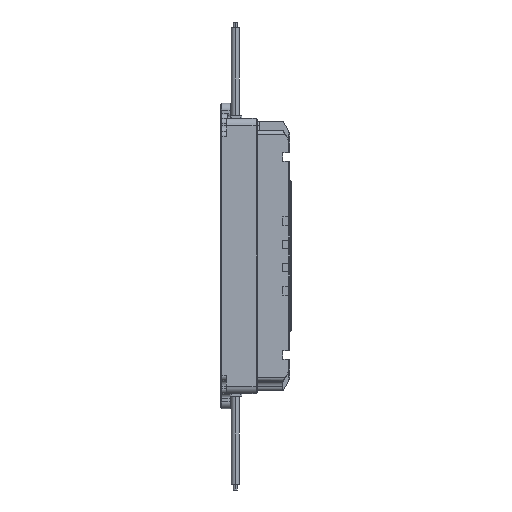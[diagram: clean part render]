
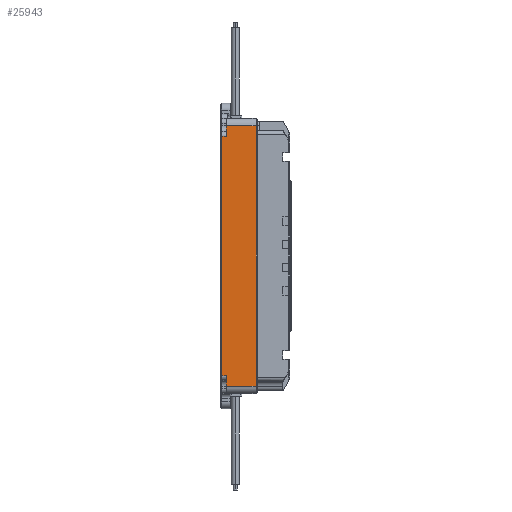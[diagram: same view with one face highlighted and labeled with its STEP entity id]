
A CAD part, left-side view. The second image highlights one B-rep face of the part: STEP entity #25943.
In plain terms, the highlighted planar face has unit normal (-1, 0, 0).
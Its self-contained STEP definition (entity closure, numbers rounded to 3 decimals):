
#1794=DIRECTION('',(0.,0.,1.));
#1795=VECTOR('',#1794,140.);
#1796=CARTESIAN_POINT('',(-33.,-14.,
-70.));
#1797=LINE('',#1796,#1795);
#2938=DIRECTION('',(0.,0.,-1.));
#2939=VECTOR('',#2938,128.8);
#2940=CARTESIAN_POINT('',(-33.,4.5,64.4));
#2941=LINE('',#2940,#2939);
#3352=DIRECTION('',(0.,1.,0.));
#3353=VECTOR('',#3352,16.);
#3354=CARTESIAN_POINT('',(-33.,-14.,
-70.));
#3355=LINE('',#3354,#3353);
#3356=DIRECTION('',(0.,0.,1.));
#3357=VECTOR('',#3356,5.6);
#3358=CARTESIAN_POINT('',(-33.,2.,-70.));
#3359=LINE('',#3358,#3357);
#3360=DIRECTION('',(0.,1.,0.));
#3361=VECTOR('',#3360,2.5);
#3362=CARTESIAN_POINT('',(-33.,2.,-64.4));
#3363=LINE('',#3362,#3361);
#3364=DIRECTION('',(0.,-1.,0.));
#3365=VECTOR('',#3364,2.5);
#3366=CARTESIAN_POINT('',(-33.,4.5,64.4));
#3367=LINE('',#3366,#3365);
#3368=DIRECTION('',(0.,0.,1.));
#3369=VECTOR('',#3368,5.6);
#3370=CARTESIAN_POINT('',(-33.,2.,64.4));
#3371=LINE('',#3370,#3369);
#3376=DIRECTION('',(0.,1.,0.));
#3377=VECTOR('',#3376,16.);
#3378=CARTESIAN_POINT('',(-33.,-14.,
70.));
#3379=LINE('',#3378,#3377);
#17482=CARTESIAN_POINT('',(-33.,2.,70.));
#17483=VERTEX_POINT('',#17482);
#17488=CARTESIAN_POINT('',(-33.,2.,64.4));
#17489=VERTEX_POINT('',#17488);
#17692=CARTESIAN_POINT('',(-33.,4.5,-64.4));
#17693=VERTEX_POINT('',#17692);
#17694=CARTESIAN_POINT('',(-33.,4.5,64.4));
#17695=VERTEX_POINT('',#17694);
#17700=CARTESIAN_POINT('',(-33.,2.,-70.));
#17701=CARTESIAN_POINT('',(-33.,2.,-64.4));
#17702=VERTEX_POINT('',#17700);
#17703=VERTEX_POINT('',#17701);
#18680=CARTESIAN_POINT('',(-33.,-14.,
-70.));
#18681=VERTEX_POINT('',#18680);
#18682=CARTESIAN_POINT('',(-33.,-14.,
70.));
#18683=VERTEX_POINT('',#18682);
#25923=CARTESIAN_POINT('',(-33.,0.,-74.));
#25924=DIRECTION('',(-1.,0.,0.));
#25925=DIRECTION('',(0.,0.,1.));
#25926=AXIS2_PLACEMENT_3D('',#25923,#25924,#25925);
#25927=PLANE('',#25926);
#25929=ORIENTED_EDGE('',*,*,#25928,.F.);
#25930=ORIENTED_EDGE('',*,*,#24444,.F.);
#25932=ORIENTED_EDGE('',*,*,#25931,.T.);
#25934=ORIENTED_EDGE('',*,*,#25933,.T.);
#25935=ORIENTED_EDGE('',*,*,#25915,.T.);
#25936=ORIENTED_EDGE('',*,*,#25236,.F.);
#25938=ORIENTED_EDGE('',*,*,#25937,.T.);
#25940=ORIENTED_EDGE('',*,*,#25939,.T.);
#25941=EDGE_LOOP('',(#25929,#25930,#25932,#25934,#25935,#25936,#25938,#25940));
#25942=FACE_OUTER_BOUND('',#25941,.F.);
#25943=ADVANCED_FACE('',(#25942),#25927,.T.);
#24444=EDGE_CURVE('',#18681,#18683,#1797,.T.);
#25236=EDGE_CURVE('',#17695,#17693,#2941,.T.);
#25915=EDGE_CURVE('',#17703,#17693,#3363,.T.);
#25928=EDGE_CURVE('',#18683,#17483,#3379,.T.);
#25931=EDGE_CURVE('',#18681,#17702,#3355,.T.);
#25933=EDGE_CURVE('',#17702,#17703,#3359,.T.);
#25937=EDGE_CURVE('',#17695,#17489,#3367,.T.);
#25939=EDGE_CURVE('',#17489,#17483,#3371,.T.);
